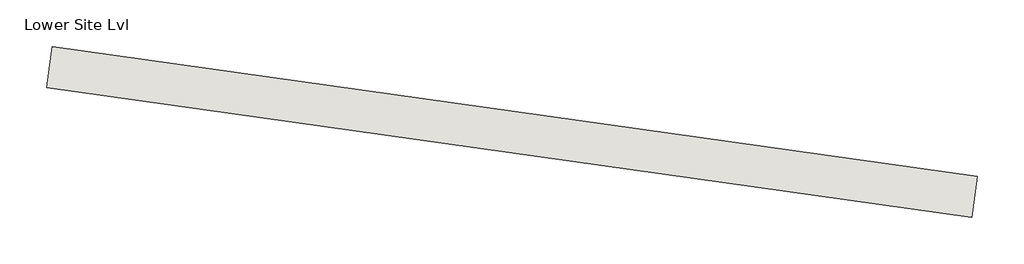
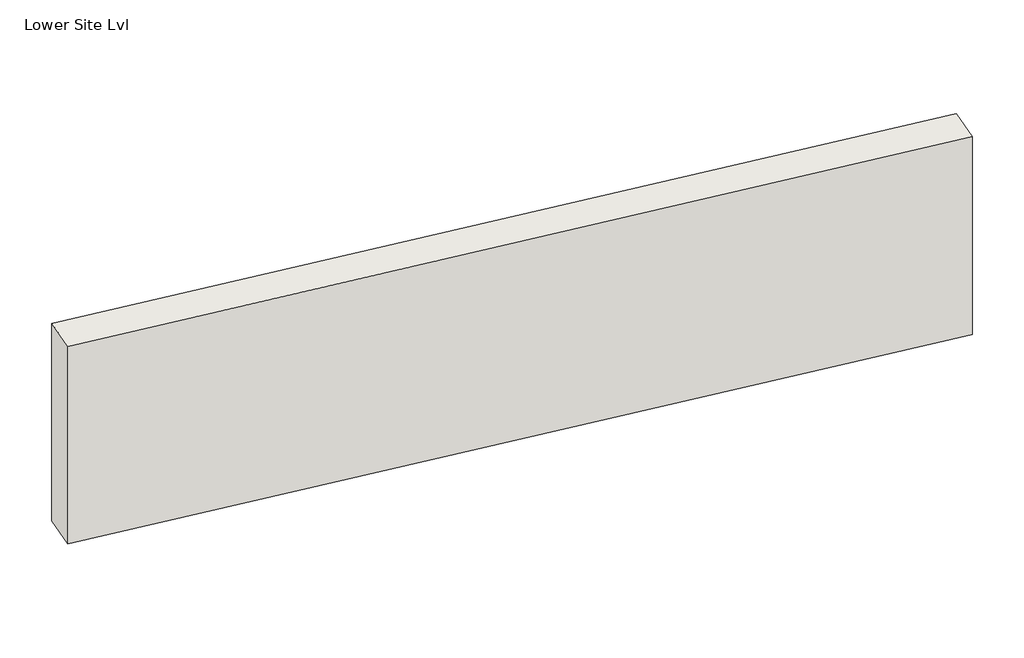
# One storey: 1 wall.
"""IFC4 building model written with IfcOpenShell, lengths in millimetres."""

from ifc_helpers import new_model, si_unit, frame, origin, place, context, project, spatial, polyline, outline, extrude, element, save

model = new_model("IFC4")

# Units and contexts
model_context = context("Model", 3, world=origin())
ifc_project = project(units=[si_unit("LENGTHUNIT", "METRE", prefix="MILLI")], contexts=[model_context])

# Site, building, storey
site = spatial("IfcSite", under=ifc_project)
building = spatial("IfcBuilding", under=site)
storey = spatial("IfcBuildingStorey", under=building, Name="Lower Site Lvl", Elevation=-1200.0)

# Wall
placement = place(None, origin())
element("IfcWall", 1, ObjectType="Wall-Ext_215Bwk", at=placement, inside=storey, context=model_context, shape_type="SweptSolid", body=[
    extrude(outline(polyline([(-1614.8001055, -5104.8013236), (3181.2164534, -5778.8374941), (3151.2942367, -5991.7451288), (-1644.7223222, -5317.7089584), (-1614.8001055, -5104.8013236)])), frame((0.0, 0.0, -1200.0), z_axis=(0.0, 0.0, 1.0), x_axis=(1.0, 0.0, 0.0)), (0.0, 0.0, 1.0), 1200.0),
])

save(model, "model.ifc")
